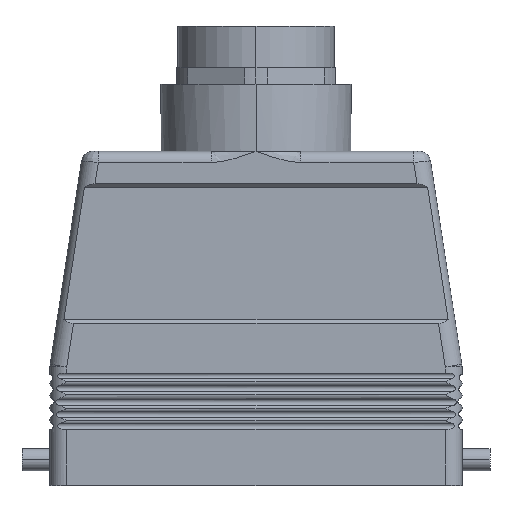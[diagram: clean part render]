
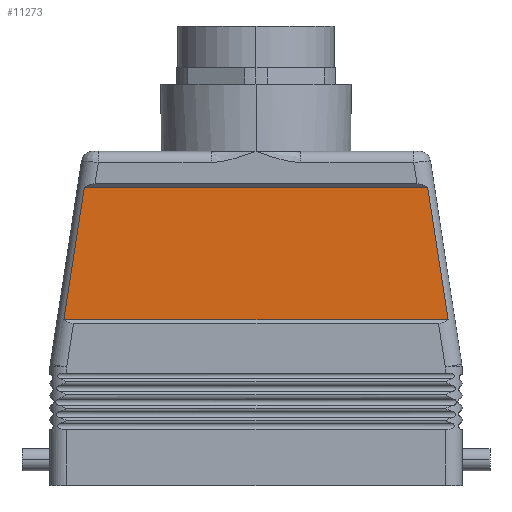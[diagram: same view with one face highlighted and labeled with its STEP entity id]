
A CAD part, top view. The second image highlights one B-rep face of the part: STEP entity #11273.
In plain terms, the highlighted planar face has unit normal (0, 0, 1).
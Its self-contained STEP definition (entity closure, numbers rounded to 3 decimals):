
#756 = LINE ( 'NONE', #766, #768 ) ;
#765 = DIRECTION ( 'NONE',  ( -0.153, -0.988, 0. ) ) ;
#766 = CARTESIAN_POINT ( 'NONE',  ( -37.823, 75.01, 20.828 ) ) ;
#768 = VECTOR ( 'NONE', #765, 1000. ) ;
#902 = CARTESIAN_POINT ( 'NONE',  ( 43.603, 37.573, 20.828 ) ) ;
#941 = CARTESIAN_POINT ( 'NONE',  ( -43.603, 37.573, 20.828 ) ) ;
#958 = CARTESIAN_POINT ( 'NONE',  ( -38.956, 67.672, 20.828 ) ) ;
#1022 = CARTESIAN_POINT ( 'NONE',  ( 38.956, 67.672, 20.828 ) ) ;
#1078 = LINE ( 'NONE', #1109, #1108 ) ;
#1107 = DIRECTION ( 'NONE',  ( -0.153, 0.988, 0. ) ) ;
#1108 = VECTOR ( 'NONE', #1107, 1000. ) ;
#1109 = CARTESIAN_POINT ( 'NONE',  ( 34.03, 99.576, 20.828 ) ) ;
#6404 = DIRECTION ( 'NONE',  ( 1., 0., 0. ) ) ;
#6427 = CARTESIAN_POINT ( 'NONE',  ( 43.721, 37.573, 20.828 ) ) ;
#6451 = VECTOR ( 'NONE', #6404, 1000. ) ;
#6480 = LINE ( 'NONE', #6427, #6451 ) ;
#6848 = DIRECTION ( 'NONE',  ( 0., 0., -1. ) ) ;
#6857 = CARTESIAN_POINT ( 'NONE',  ( -63.5, 68.434, 20.828 ) ) ;
#6871 = AXIS2_PLACEMENT_3D ( 'NONE', #6857, #6848, #6886 ) ;
#6886 = DIRECTION ( 'NONE',  ( 0., 1., 0. ) ) ;
#6898 = PLANE ( 'NONE',  #6871 ) ;
#6900 = CARTESIAN_POINT ( 'NONE',  ( -38.838, 67.672, 20.828 ) ) ;
#6901 = LINE ( 'NONE', #6900, #6908 ) ;
#6907 = DIRECTION ( 'NONE',  ( -1., 0., 0. ) ) ;
#6908 = VECTOR ( 'NONE', #6907, 1000. ) ;
#6920 = FACE_OUTER_BOUND ( 'NONE', #11216, .T. ) ;
#11128 = EDGE_CURVE ( 'NONE', #15290, #15332, #6480, .T. ) ;
#11161 = ORIENTED_EDGE ( 'NONE', *, *, #11256, .T. ) ;
#11216 = EDGE_LOOP ( 'NONE', ( #11341, #11272, #11275, #11161 ) ) ;
#11256 = EDGE_CURVE ( 'NONE', #15335, #15274, #6901, .T. ) ;
#11272 = ORIENTED_EDGE ( 'NONE', *, *, #11128, .T. ) ;
#11273 = ADVANCED_FACE ( 'NONE', ( #6920 ), #6898, .F. ) ;
#11275 = ORIENTED_EDGE ( 'NONE', *, *, #15405, .T. ) ;
#11341 = ORIENTED_EDGE ( 'NONE', *, *, #15229, .T. ) ;
#15229 = EDGE_CURVE ( 'NONE', #15274, #15290, #756, .T. ) ;
#15274 = VERTEX_POINT ( 'NONE', #958 ) ;
#15290 = VERTEX_POINT ( 'NONE', #941 ) ;
#15332 = VERTEX_POINT ( 'NONE', #902 ) ;
#15335 = VERTEX_POINT ( 'NONE', #1022 ) ;
#15405 = EDGE_CURVE ( 'NONE', #15332, #15335, #1078, .T. ) ;
